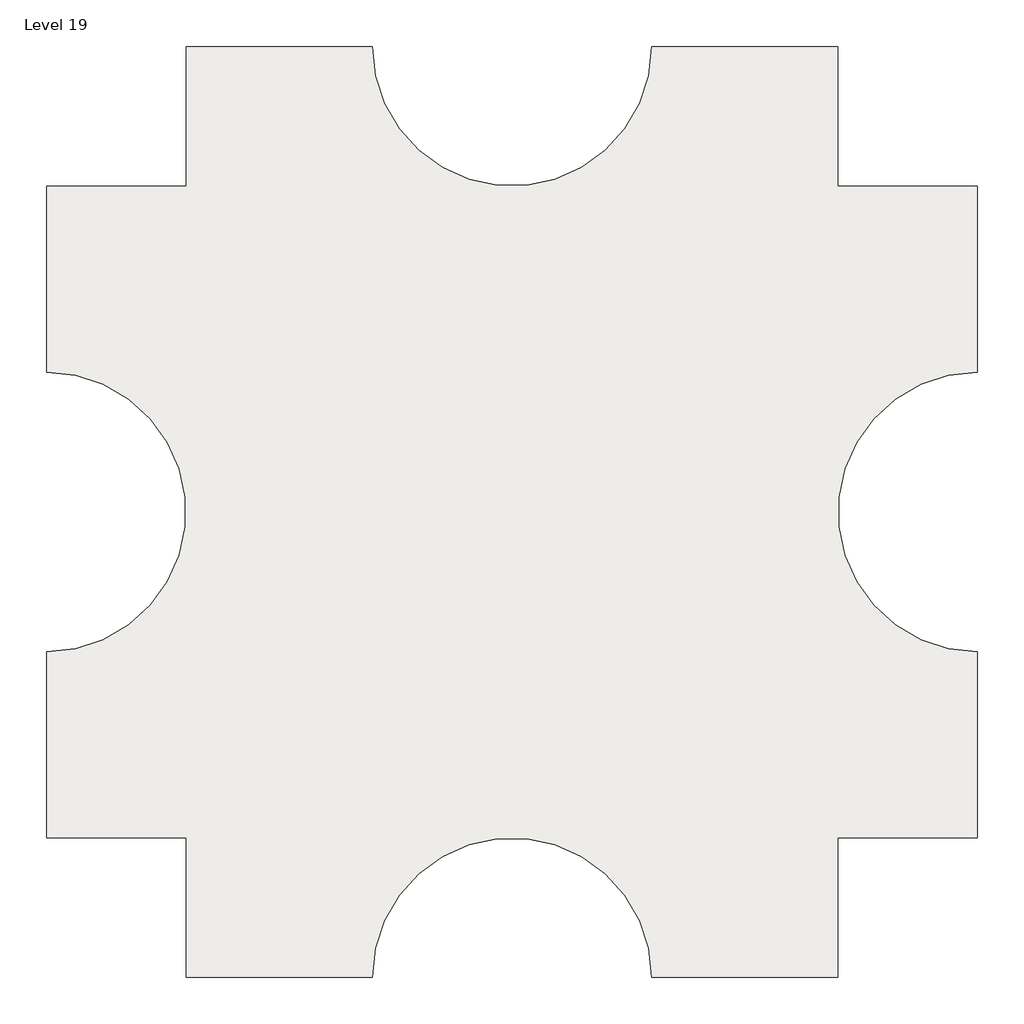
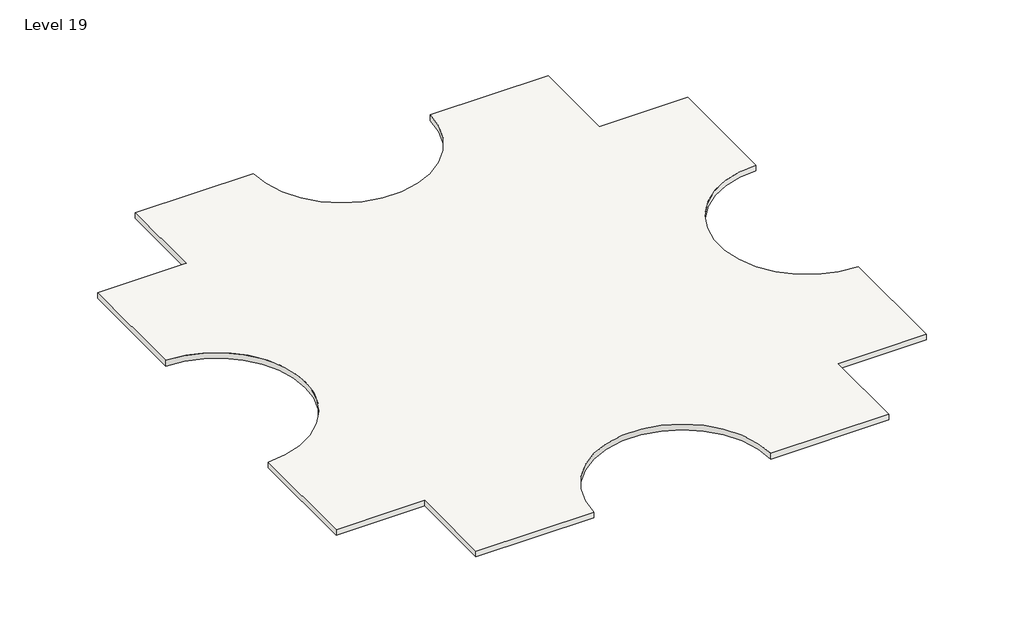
# One storey: 1 slab.
"""IFC4 building model written with IfcOpenShell, lengths in millimetres."""

import ifcopenshell
import ifcopenshell.guid

model = None  # the IFC model being written
_history = None  # IfcOwnerHistory: only IFC2X3 demands one
_inside = {}  # id of a spatial element -> (the spatial element, [elements in it])
_under = {}  # id of a project, library or spatial element -> (it, [spatial elements below it])
_declared = {}  # id of a project -> (the project, [libraries it declares])
_typed = {}  # id of a type object -> (the type object, [elements of that type])
_made_of = {}  # id of a material, layer set ... -> (it, [elements and type objects made of it])


def new_model(schema):
    """Start an empty IFC model of exactly this schema.

    Asked for "IFC4X3", IfcOpenShell would pick the latest addendum, in which some entities
    have other attributes; the version numbers below select the first issue.
    IFC2X3 requires an IfcOwnerHistory on every rooted entity: one is made here for all.
    """
    global model, _history
    if schema == "IFC4X3":
        model = ifcopenshell.file(schema_version=(4, 3, 0, 0))
    else:
        model = ifcopenshell.file(schema=schema)
    _inside.clear()
    _under.clear()
    _declared.clear()
    _typed.clear()
    _made_of.clear()
    _history = None
    if model.schema == "IFC2X3":
        org = make("IfcOrganization", Name="unknown")
        user = make(
            "IfcPersonAndOrganization",
            ThePerson=make("IfcPerson", FamilyName="unknown"),
            TheOrganization=org,
        )
        app = make(
            "IfcApplication",
            ApplicationDeveloper=org,
            Version="unknown",
            ApplicationFullName="unknown",
            ApplicationIdentifier="unknown",
        )
        _history = make(
            "IfcOwnerHistory",
            OwningUser=user,
            OwningApplication=app,
            ChangeAction="ADDED",
            CreationDate=0,
        )
    return model


def make(cls, **values):
    """One entity of the class cls with the attributes given. An attribute that is None is left unset."""
    return model.create_entity(
        cls, **{name: value for name, value in values.items() if value is not None}
    )


def rooted(cls, **values):
    """An entity with a GlobalId (a new one), such as an element, a storey or a relation."""
    return make(cls, GlobalId=ifcopenshell.guid.new(), OwnerHistory=_history, **values)


def si_unit(unit_type, name, prefix=None):
    """IfcSIUnit, for example si_unit("LENGTHUNIT", "METRE", prefix="MILLI")."""
    return make("IfcSIUnit", UnitType=unit_type, Prefix=prefix, Name=name)


def assignment(units):
    """IfcUnitAssignment: the units of a project."""
    return None if units is None else make("IfcUnitAssignment", Units=units)


def point(xyz):
    """IfcCartesianPoint."""
    return None if xyz is None else make("IfcCartesianPoint", Coordinates=xyz)


def direction(xyz):
    """IfcDirection."""
    return None if xyz is None else make("IfcDirection", DirectionRatios=xyz)


def frame(location, z_axis=None, x_axis=None):
    """IfcAxis2Placement3D, a coordinate frame: its origin and axes. An axis left out is left unset."""
    return make(
        "IfcAxis2Placement3D",
        Location=point(location),
        Axis=direction(z_axis),
        RefDirection=direction(x_axis),
    )


def frame_2d(location, x_axis=None):
    """IfcAxis2Placement2D, a coordinate frame in the plane: its origin and x axis."""
    return make(
        "IfcAxis2Placement2D", Location=point(location), RefDirection=direction(x_axis)
    )


def origin():
    """The frame at (0, 0, 0) with its axes left unset."""
    return frame((0.0, 0.0, 0.0))


def place(relative_to, where):
    """IfcLocalPlacement: puts the frame where relative to a parent placement (None: the world)."""
    return make(
        "IfcLocalPlacement", PlacementRelTo=relative_to, RelativePlacement=where
    )


def context(
    kind, dimensions, precision=None, world=None, true_north=None, identifier=None
):
    """IfcGeometricRepresentationContext, for example the 3D "Model" context."""
    return make(
        "IfcGeometricRepresentationContext",
        ContextIdentifier=identifier,
        ContextType=kind,
        CoordinateSpaceDimension=dimensions,
        Precision=precision,
        WorldCoordinateSystem=world,
        TrueNorth=true_north,
    )


def project(units=None, contexts=None):
    """IfcProject with its units and contexts."""
    return rooted(
        "IfcProject",
        Name="project",
        RepresentationContexts=contexts,
        UnitsInContext=assignment(units),
    )


def spatial(cls, under=None, at=None, **own):
    """A site, building, storey or space (cls), placed at a placement, below another one or the project."""
    s = rooted(cls, ObjectPlacement=at, **own)
    if under is not None:
        _under.setdefault(under.id(), (under, []))[1].append(s)
    return s


def polyline(points):
    """IfcPolyline through the points."""
    return make("IfcPolyline", Points=[point(p) for p in points])


def circle_curve(where, radius):
    """IfcCircle in the frame where."""
    return make("IfcCircle", Position=where, Radius=radius)


def trimmed(basis, trim1, trim2, sense, master):
    """IfcTrimmedCurve: the piece of a basis curve between two trims."""
    return make(
        "IfcTrimmedCurve",
        BasisCurve=basis,
        Trim1=trim1,
        Trim2=trim2,
        SenseAgreement=sense,
        MasterRepresentation=master,
    )


def segment(curve, same_sense, transition):
    """IfcCompositeCurveSegment."""
    return make(
        "IfcCompositeCurveSegment",
        Transition=transition,
        SameSense=same_sense,
        ParentCurve=curve,
    )


def composite_curve(segments, self_intersect=None):
    """IfcCompositeCurve: segments joined end to end."""
    return make("IfcCompositeCurve", Segments=segments, SelfIntersect=self_intersect)


def outline(outer, holes=None, kind="AREA"):
    """IfcArbitraryClosedProfileDef: a profile drawn as a closed curve; with holes, ...WithVoids."""
    if holes is None:
        return make("IfcArbitraryClosedProfileDef", ProfileType=kind, OuterCurve=outer)
    return make(
        "IfcArbitraryProfileDefWithVoids",
        ProfileType=kind,
        OuterCurve=outer,
        InnerCurves=holes,
    )


def extrude(swept, where, along, depth):
    """IfcExtrudedAreaSolid: the profile swept, set in the frame where, extruded along a direction by depth."""
    return make(
        "IfcExtrudedAreaSolid",
        SweptArea=swept,
        Position=where,
        ExtrudedDirection=direction(along),
        Depth=depth,
    )


def shape(context_of_items, identifier, shape_type, items):
    """IfcShapeRepresentation: the items that make up one representation, for example the "Body"."""
    return make(
        "IfcShapeRepresentation",
        ContextOfItems=context_of_items,
        RepresentationIdentifier=identifier,
        RepresentationType=shape_type,
        Items=items,
    )


def made_of(thing, what):
    """Note that an element or type object is made of a material, layer set ...; save() writes the relation."""
    if what is not None:
        _made_of.setdefault(what.id(), (what, []))[1].append(thing)
    return thing


def element(
    cls,
    number,
    at=None,
    inside=None,
    cuts=None,
    type_object=None,
    material=None,
    context=None,
    identifier="Body",
    shape_type=None,
    held_by="IfcProductDefinitionShape",
    body=None,
    shapes=None,
    **own,
):
    """One element of the class cls, such as IfcWall. Its Tag is "e" and its number.

    at: its placement. inside: the storey or other place that contains it. cuts: it is an
    opening in that element (IfcRelVoidsElement). A single representation is given by context,
    identifier, shape_type and body (its items); several are given by shapes. held_by: the class
    of the entity that holds the representations. save() writes the other relations.
    """
    e = rooted(cls, Tag="e%d" % number, ObjectPlacement=at, **own)
    if body is not None:
        shapes = [shape(context, identifier, shape_type, body)]
    if shapes is not None:
        e.Representation = make(held_by, Representations=shapes)
    if inside is not None:
        _inside.setdefault(inside.id(), (inside, []))[1].append(e)
    if cuts is not None:
        rooted(
            "IfcRelVoidsElement", RelatingBuildingElement=cuts, RelatedOpeningElement=e
        )
    if type_object is not None:
        _typed.setdefault(type_object.id(), (type_object, []))[1].append(e)
    return made_of(e, material)


def aggregate(whole, parts):
    """IfcRelAggregates: a whole, such as a stair, and the parts it consists of."""
    return rooted("IfcRelAggregates", RelatingObject=whole, RelatedObjects=parts)


def save(model, path):
    """Write the relations noted so far, then the file.

    IfcRelAggregates (storeys below a building ...), IfcRelContainedInSpatialStructure (elements
    in a storey), IfcRelDefinesByType, IfcRelAssociatesMaterial and IfcRelDeclares: one each for
    every whole, place, type object, material and project.
    """
    for whole, parts in _under.values():
        aggregate(whole, parts)
    for where, things in _inside.values():
        rooted(
            "IfcRelContainedInSpatialStructure",
            RelatedElements=things,
            RelatingStructure=where,
        )
    for kind, things in _typed.values():
        rooted("IfcRelDefinesByType", RelatedObjects=things, RelatingType=kind)
    for what, things in _made_of.values():
        rooted("IfcRelAssociatesMaterial", RelatedObjects=things, RelatingMaterial=what)
    for by, libraries in _declared.values():
        rooted("IfcRelDeclares", RelatingContext=by, RelatedDefinitions=libraries)
    model.write(path)


model = new_model("IFC4")

# Units and contexts
model_context = context("Model", 3, world=origin())
ifc_project = project(units=[si_unit("LENGTHUNIT", "METRE", prefix="MILLI")], contexts=[model_context])

# Site, building, storey
site = spatial("IfcSite", under=ifc_project)
building = spatial("IfcBuilding", under=site)
storey = spatial("IfcBuildingStorey", under=building, Name="Level 19", Elevation=54864.0)

# Slab
placement = place(None, origin())
element("IfcSlab", 1, ObjectType="Generic - 12\"", at=placement, inside=storey, context=model_context, shape_type="SweptSolid", body=[
    extrude(outline(composite_curve([segment(polyline([(-7150.3629456, 4479.6634547), (-7150.3629456, 9051.6634547), (-1054.3629456, 9051.6634547)]), True, "CONTINUOUS"), segment(trimmed(circle_curve(frame_2d((3517.6370544, 9051.6634547)), 4572.0), [point((-1054.3629456, 9051.6634547))], [point((8089.6370544, 9051.6634547))], True, "CARTESIAN"), True, "CONTINUOUS"), segment(polyline([(8089.6370544, 9051.6634547), (14185.6370544, 9051.6634547), (14185.6370544, 4479.6634547), (18757.6370544, 4479.6634547), (18757.6370544, -1616.3365453)]), True, "CONTINUOUS"), segment(trimmed(circle_curve(frame_2d((18757.6370544, -6188.3365453)), 4572.0), [point((18757.6370544, -1616.3365453))], [point((18757.6370544, -10760.3365453))], True, "CARTESIAN"), True, "CONTINUOUS"), segment(polyline([(18757.6370544, -10760.3365453), (18757.6370544, -16856.3365453), (14185.6370544, -16856.3365453), (14185.6370544, -21428.3365453), (8089.6370544, -21428.3365453)]), True, "CONTINUOUS"), segment(trimmed(circle_curve(frame_2d((3517.6370544, -21428.3365453)), 4572.0), [point((8089.6370544, -21428.3365453))], [point((-1054.3629456, -21428.3365453))], True, "CARTESIAN"), True, "CONTINUOUS"), segment(polyline([(-1054.3629456, -21428.3365453), (-7150.3629456, -21428.3365453), (-7150.3629456, -16856.3365453), (-11722.3629456, -16856.3365453), (-11722.3629456, -10760.3365453)]), True, "CONTINUOUS"), segment(trimmed(circle_curve(frame_2d((-11722.3629456, -6188.3365453)), 4572.0), [point((-11722.3629456, -10760.3365453))], [point((-11722.3629456, -1616.3365453))], True, "CARTESIAN"), True, "CONTINUOUS"), segment(polyline([(-11722.3629456, -1616.3365453), (-11722.3629456, 4479.6634547), (-7150.3629456, 4479.6634547)]), True, "CONTINUOUS")], self_intersect=False)), frame((0.0, 0.0, 54559.2), z_axis=(0.0, 0.0, 1.0), x_axis=(1.0, 0.0, 0.0)), (0.0, 0.0, 1.0), 304.8),
])

save(model, "model.ifc")
